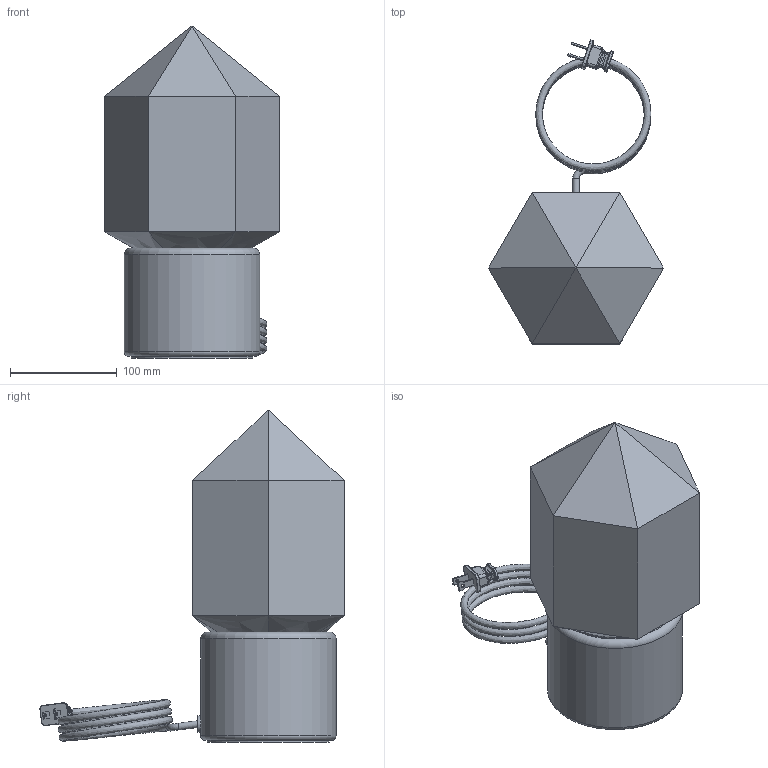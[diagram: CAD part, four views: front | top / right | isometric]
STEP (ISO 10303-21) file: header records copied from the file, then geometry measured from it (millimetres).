
FILE_DESCRIPTION(/* description */ (''),/* implementation_level */ '2;1');
FILE_NAME(/* name */ 'Facet Petite - Ionic Table Lamp - Opalia Collection.step',/* time_stamp */ '2024-07-26T15:38:51-04:00',/* author */ (''),/* organization */ (''),/* preprocessor_version */ 'ST-DEVELOPER v20',/* originating_system */ 'Autodesk Translation Framework v13.14.0.145',/* authorisation */ '');
FILE_SCHEMA (('AUTOMOTIVE_DESIGN { 1 0 10303 214 3 1 1 }'));
Length unit declared in the file: inch
Products named in the file (18): Marble Base - Ionic Table Lamp - Ketra Ready - 120V - Opalia Collecti
on; Marble Base - Ionic Table Lamp - Ketra Ready - 120V; Coiled - SVT (Blk Fabric); Marble Base; 90701000093 ¹â°åE27µÆ×ù_¦Õ375
9mm_ºÚÉ«_CEÈÏÖ¤; 90701000096 M10ÑÀ¹Ü_M10L25mmÄÚ¿×¦
Õ7_²ÄÖÊ£ºÌú_¶Æ°×Ð
¿_RoHS; 90701000098 Ñ¹Ïß°å_PP_314612_º
ÚÉ«; 90701000097 M10Áù½Ç±¡ÂÝÄ¸_M10
_²ÄÖÊ£ºÌú_¶Æ°×Ð¿
_RoHS; M10ÄÚ¾â³ÝËø½ôµæÈ¦
_²ÄÖÊ£ºÌú_¶Æ°×Ð¿
_RoHS; Plastic Insert; Silicone Gasket; Neoprene Pad; 2-Pole Plug End; Rubber Grommet; Facet Petite; Facet Petite_1; Ketra - A20 Tunable Lamp; Ketra A20
Assembly tree (17 placements, depth 3):
  Marble Base - Ionic Table Lamp - Ketra Ready - 120V - Opalia Collecti
on
    Marble Base - Ionic Table Lamp - Ketra Ready - 120V
      Coiled - SVT (Blk Fabric)
      Marble Base
      90701000093 ¹â°åE27µÆ×ù_¦Õ375
9mm_ºÚÉ«_CEÈÏÖ¤
      90701000096 M10ÑÀ¹Ü_M10L25mmÄÚ¿×¦
Õ7_²ÄÖÊ£ºÌú_¶Æ°×Ð
¿_RoHS
      90701000098 Ñ¹Ïß°å_PP_314612_º
ÚÉ«
      90701000097 M10Áù½Ç±¡ÂÝÄ¸_M10
_²ÄÖÊ£ºÌú_¶Æ°×Ð¿
_RoHS
      M10ÄÚ¾â³ÝËø½ôµæÈ¦
_²ÄÖÊ£ºÌú_¶Æ°×Ð¿
_RoHS
      Plastic Insert
      Silicone Gasket
      Neoprene Pad
      2-Pole Plug End
      Rubber Grommet
    Facet Petite
      Facet Petite_1
    Ketra - A20 Tunable Lamp
      Ketra A20
Bounding box: 164.24 x 285.47 x 311.47 mm (x, y, z)
Volume: 1266713 mm3; surface area: 489093.2 mm2
Topology: 14 solids, 15 shells, 2021 faces, 5353 edges, 3510 vertices
Faces by surface type: plane 1005, bspline 826, cylinder 129, torus 32, cone 28, sphere 1
Full cylindrical faces by diameter (mm): 3.175 x2, 4.092 x1, 6.35 x2, 7 x1, 7.62 x1, 8.128 x1, 8.3 x1, 8.376 x14, 10 x16, 10.16 x1, 10.5 x1, 10.922 x1, 11 x1, 11.684 x1, 14 x1, 15.24 x2, 16 x1, 21 x1, 25.4 x3, 27 x1, 35.5 x1, 37.5 x1, 39.37 x1, 41.402 x1, 80.518 x1, 82.55 x1, 93.98 x2, 98.044 x1, 100.076 x1, 100.635 x1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
Entity records: 77572 total; most frequent: CARTESIAN_POINT 32407, ORIENTED_EDGE 10702, DIRECTION 6443, EDGE_CURVE 5352, VERTEX_POINT 3510, LINE 3305, VECTOR 3305, EDGE_LOOP 2198
